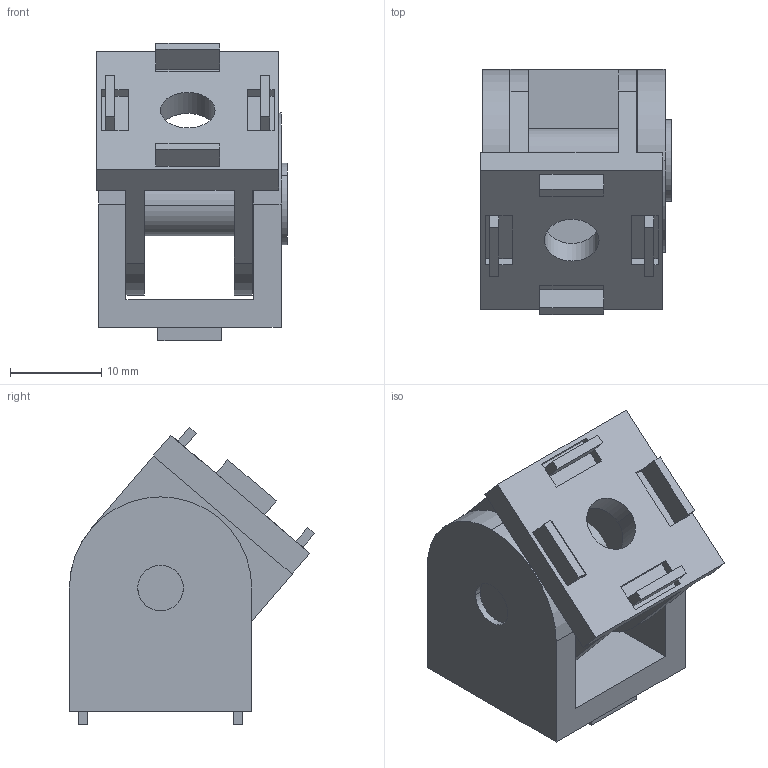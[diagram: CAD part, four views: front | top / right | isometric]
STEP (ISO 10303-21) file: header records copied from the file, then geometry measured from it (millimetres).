
FILE_DESCRIPTION (( 'STEP AP203' ), '1' );
FILE_NAME ('2056.STEP', '2016-04-06T15:25:35', ( '' ), ( '' ), 'SwSTEP 2.0', 'SolidWorks 2014', '' );
FILE_SCHEMA (( 'CONFIG_CONTROL_DESIGN' ));
Length unit declared in the file: millimetre
Products named in the file (5): 昢膼瘔; 昢膼瘔1; 碞鵻罻; 搿錓; 2056
Assembly tree (4 placements, depth 2):
  2056
    昢膼瘔
    昢膼瘔1
    碞鵻罻
    搿錓
Bounding box: 20.93 x 26.89 x 32.64 mm (x, y, z)
Volume: 6419.8 mm3; surface area: 6562.8 mm2
Topology: 4 solids, 4 shells, 145 faces, 356 edges, 226 vertices
Faces by surface type: plane 109, cylinder 34, cone 2
Entity records: 4745 total; most frequent: CARTESIAN_POINT 752, ORIENTED_EDGE 712, DIRECTION 710, EDGE_CURVE 356, LINE 294, VECTOR 294, VERTEX_POINT 226, AXIS2_PLACEMENT_3D 208
